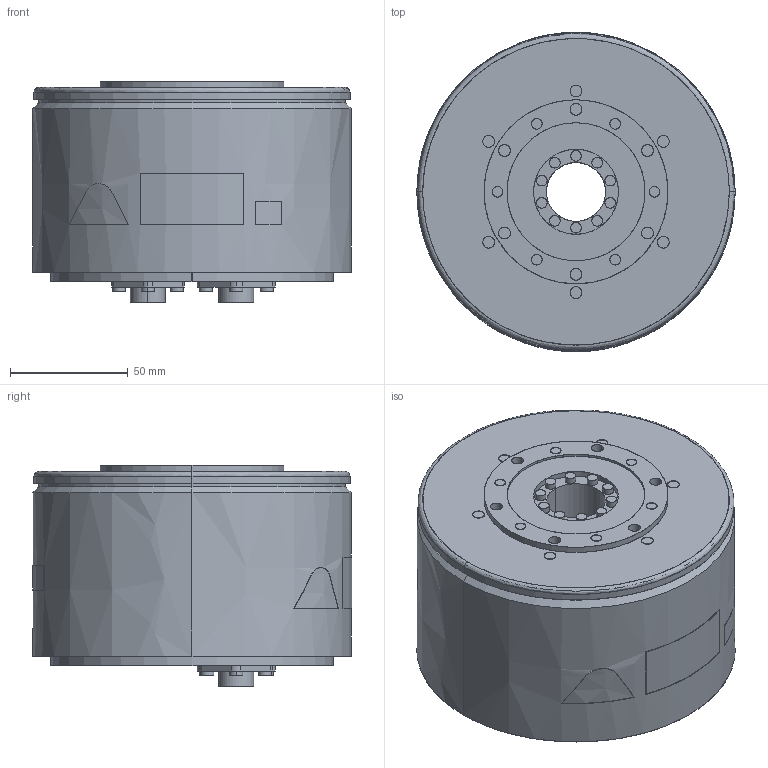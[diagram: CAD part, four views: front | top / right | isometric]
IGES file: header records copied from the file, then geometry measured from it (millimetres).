
Start section: SolidWorks IGES file using analytic representation for surfaces
Global section: file name: D:\YASKAWA\sgm7f_10b_a1_.IGS; native system: SolidWorks 2006 by SolidWorks Corporation; preprocessor: SolidWorks 2006 by SolidWorks Corporation; author: yamanouchi; date: 160724.152654; units: millimetre
Bounding box: 135 x 135.4 x 94.1 mm (x, y, z)
Surface area: 90740.4 mm2 (no closed solid volume)
Topology: 0 solids, 0 shells, 326 faces, 6639 edges, 6639 vertices
Faces by surface type: revolution 186, bspline 140
